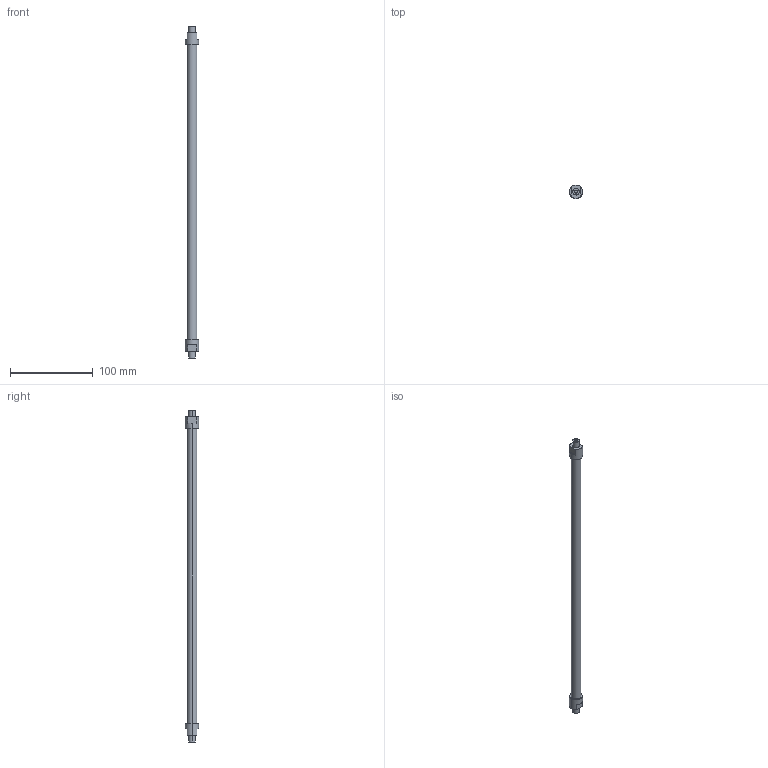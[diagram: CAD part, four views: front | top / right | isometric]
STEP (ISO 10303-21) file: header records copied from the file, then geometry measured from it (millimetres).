
FILE_DESCRIPTION(('STEP AP214'),'1');
FILE_NAME('ETT-R025G395.stp','2015-02-03T08:47:12',(' '),(' '),'Spatial InterOp 3D',' ',' ');
FILE_SCHEMA(('automotive_design'));
Length unit declared in the file: metre
Products named in the file (2): 1; 2
Bounding box: 16 x 16 x 402 mm (x, y, z)
Volume: 46424.1 mm3; surface area: 16261.4 mm2
Topology: 1 solids, 4 shells, 33 faces, 78 edges, 56 vertices
Faces by surface type: plane 17, cylinder 16
Entity records: 1292 total; most frequent: DIRECTION 192, CARTESIAN_POINT 169, ORIENTED_EDGE 144, AXIS2_PLACEMENT_3D 79, EDGE_CURVE 78, VERTEX_POINT 56, CIRCLE 44, EDGE_LOOP 40
